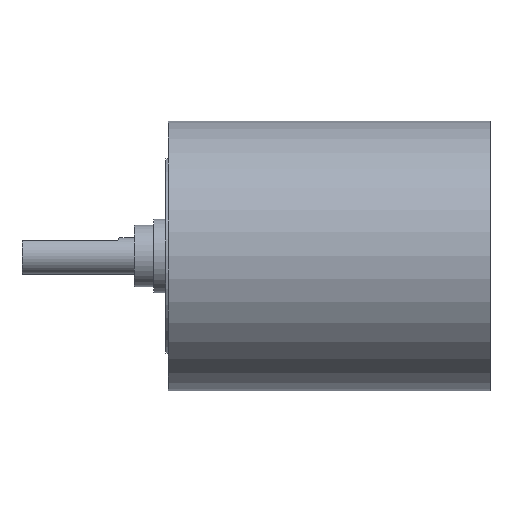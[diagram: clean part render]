
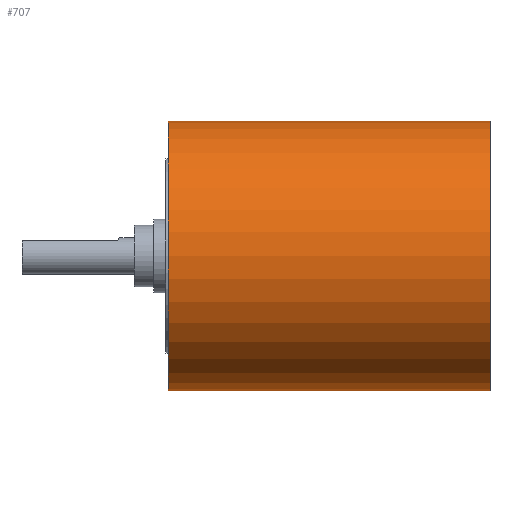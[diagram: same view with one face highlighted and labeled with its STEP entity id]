
A CAD part, top view. The second image highlights one B-rep face of the part: STEP entity #707.
In plain terms, the highlighted cylindrical face has radius 11 mm (diameter 22 mm), a partial arc.
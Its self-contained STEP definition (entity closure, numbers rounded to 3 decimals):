
#6=CARTESIAN_POINT('',(0.2,0.,0.));
#7=DIRECTION('',(1.,0.,0.));
#8=DIRECTION('',(0.,1.,0.));
#9=AXIS2_PLACEMENT_3D('',#6,#7,#8);
#221=DIRECTION('',(-1.,0.,0.));
#222=VECTOR('',#221,26.25);
#223=CARTESIAN_POINT('',(26.45,11.,0.));
#224=LINE('',#223,#222);
#225=DIRECTION('',(-1.,0.,0.));
#226=VECTOR('',#225,26.25);
#227=CARTESIAN_POINT('',(26.45,-11.,0.));
#228=LINE('',#227,#226);
#234=CARTESIAN_POINT('',(26.45,0.,0.));
#235=DIRECTION('',(1.,0.,0.));
#236=DIRECTION('',(0.,1.,0.));
#237=AXIS2_PLACEMENT_3D('',#234,#235,#236);
#275=CARTESIAN_POINT('',(26.45,11.,0.));
#276=CARTESIAN_POINT('',(0.2,11.,0.));
#277=VERTEX_POINT('',#275);
#278=VERTEX_POINT('',#276);
#291=CARTESIAN_POINT('',(26.45,-11.,0.));
#292=CARTESIAN_POINT('',(0.2,-11.,0.));
#293=VERTEX_POINT('',#291);
#294=VERTEX_POINT('',#292);
#695=CARTESIAN_POINT('',(-11.75,0.,0.));
#696=DIRECTION('',(1.,0.,0.));
#697=DIRECTION('',(0.,-1.,0.));
#698=AXIS2_PLACEMENT_3D('',#695,#696,#697);
#699=CYLINDRICAL_SURFACE('',#698,11.);
#700=ORIENTED_EDGE('',*,*,#685,.F.);
#702=ORIENTED_EDGE('',*,*,#701,.T.);
#703=ORIENTED_EDGE('',*,*,#688,.T.);
#704=ORIENTED_EDGE('',*,*,#349,.F.);
#705=EDGE_LOOP('',(#700,#702,#703,#704));
#706=FACE_OUTER_BOUND('',#705,.F.);
#707=ADVANCED_FACE('',(#706),#699,.T.);
#10=CIRCLE('',#9,11.);
#238=CIRCLE('',#237,11.);
#349=EDGE_CURVE('',#278,#294,#10,.T.);
#685=EDGE_CURVE('',#277,#278,#224,.T.);
#688=EDGE_CURVE('',#293,#294,#228,.T.);
#701=EDGE_CURVE('',#277,#293,#238,.T.);
